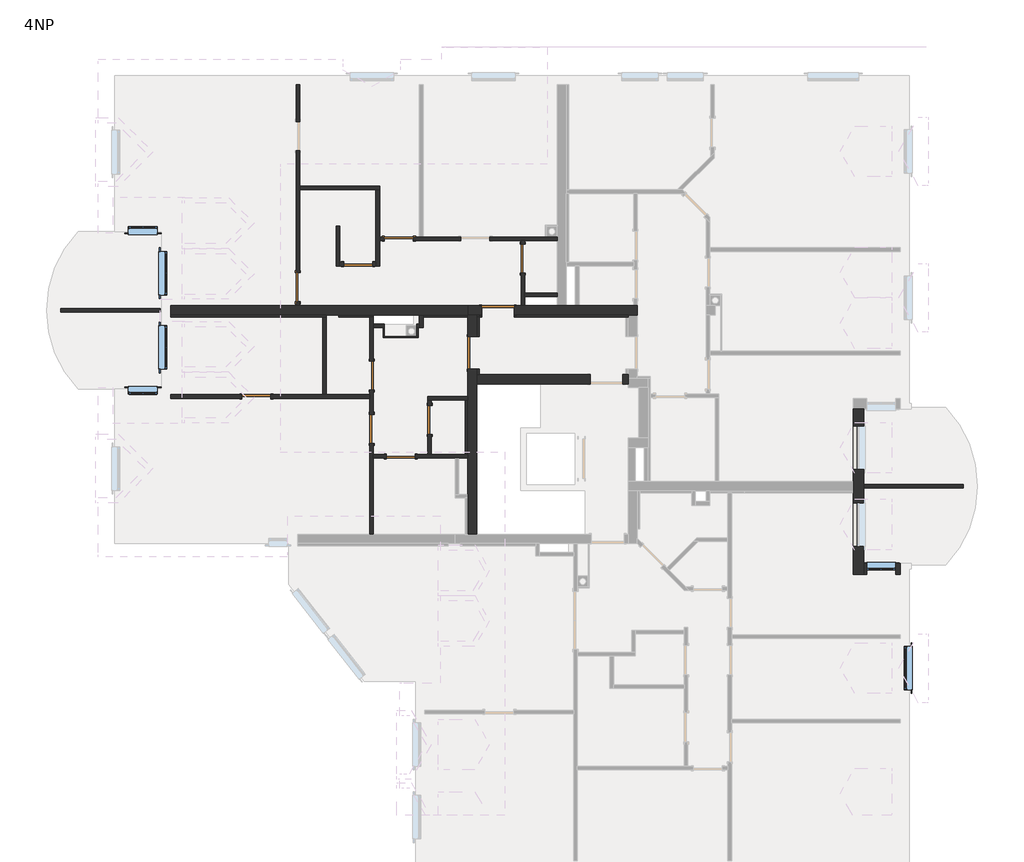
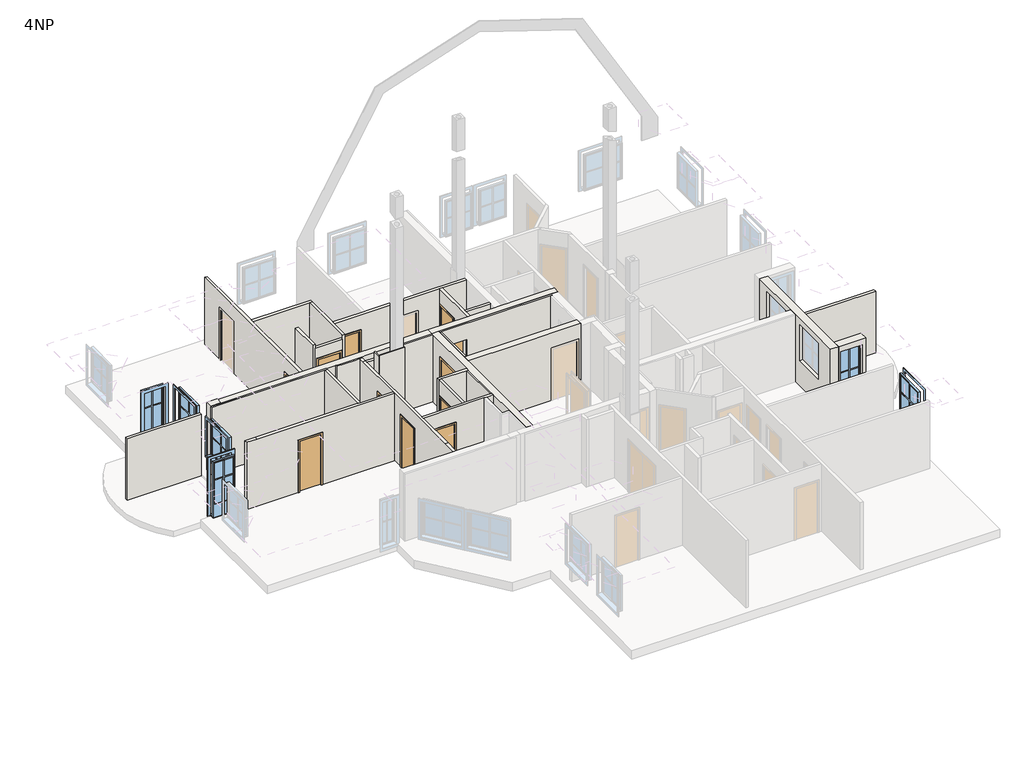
# One storey, part 2 of 5: 34 walls, 11 doors, 6 windows.
"""IFC4 building model written with IfcOpenShell, lengths in millimetres."""

from ifc_helpers import new_model, si_unit, frame, origin, place, context, project, spatial, polyline, outline, extrude, faceted_brep, transform, mapped, element, save
from components import sd_800x2000_6a16926d, sd_800x2000_80f4ff25, sd_900x2000_a6683946, standard_window_with_mullions_80486b60, window_2_775565f5, window_2_78aac011, window_2_7caaedc8

model = new_model("IFC4")

# Units and contexts
model_context = context("Model", 3, world=origin())
ifc_project = project(units=[si_unit("LENGTHUNIT", "METRE", prefix="MILLI")], contexts=[model_context])

# Site, building, storey
site = spatial("IfcSite", under=ifc_project)
building = spatial("IfcBuilding", under=site)
storey = spatial("IfcBuildingStorey", under=building, Name="4NP", Elevation=8850.0)

# Doors
placement = place(None, origin())
sd_800x2000_shape = sd_800x2000_6a16926d(model_context)
element("IfcDoor", 1, ObjectType="JednokridlePlne : SD 800x2000", at=placement, inside=storey, context=model_context, shape_type="MappedRepresentation", body=[
    mapped(sd_800x2000_shape, transform((-3907.1962165, 1323.3830769, 8850.0), x_axis=(0.0, -0.9999999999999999, 0.0), y_axis=(0.9999999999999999, 0.0, 0.0), z_axis=(0.0, 0.0, 1.0))),
])
element("IfcDoor", 2, ObjectType="JednokridlePlne : SD 800x2000", at=placement, inside=storey, context=model_context, shape_type="MappedRepresentation", body=[
    mapped(sd_800x2000_shape, transform((-8680.4610589, 1967.6290541, 8850.0), x_axis=(-1.0, 0.0, 0.0), y_axis=(0.0, -1.0, 0.0), z_axis=(0.0, 0.0, 1.0))),
])
element("IfcDoor", 3, ObjectType="JednokridlePlne : SD 800x2000", at=placement, inside=storey, context=model_context, shape_type="MappedRepresentation", body=[
    mapped(sd_800x2000_shape, transform((-5507.1962165, 1074.0740268, 8850.0), x_axis=(0.0, -1.0, 0.0), y_axis=(1.0, 0.0, 0.0), z_axis=(0.0, 0.0, 1.0))),
])
element("IfcDoor", 4, ObjectType="JednokridlePlne : SD 800x2000", at=placement, inside=storey, context=model_context, shape_type="MappedRepresentation", body=[
    mapped(sd_800x2000_shape, transform((-4702.5873933, 317.6290541, 8850.0), x_axis=(1.0, 0.0, 0.0), y_axis=(0.0, 1.0, 0.0), z_axis=(0.0, 0.0, 1.0))),
])
element("IfcDoor", 5, ObjectType="JednokridlePlne : SD 800x2000", at=placement, inside=storey, context=model_context, shape_type="MappedRepresentation", body=[
    mapped(sd_800x2000_shape, transform((-4754.8758057, 6317.6290541, 8850.0), x_axis=(-1.0, 0.0, 0.0), y_axis=(0.0, -1.0, 0.0), z_axis=(0.0, 0.0, 1.0))),
])
element("IfcDoor", 6, ObjectType="JednokridlePlne : SD 800x2000", at=placement, inside=storey, context=model_context, shape_type="MappedRepresentation", body=[
    mapped(sd_800x2000_shape, transform((-1337.1962165, 5771.0654579, 8850.0), x_axis=(0.0, -1.0, 0.0), y_axis=(1.0, 0.0, 0.0), z_axis=(0.0, 0.0, 1.0))),
])
element("IfcDoor", 7, ObjectType="JednokridlePlne : SD 800x2000", at=placement, inside=storey, context=model_context, shape_type="MappedRepresentation", body=[
    mapped(sd_800x2000_shape, transform((-5880.7146608, 5617.6290541, 8850.0), x_axis=(0.9999999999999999, 0.0, 0.0), y_axis=(0.0, 0.9999999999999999, 0.0), z_axis=(0.0, 0.0, 1.0))),
])
sd_800x2000_2_shape = sd_800x2000_80f4ff25(model_context)
element("IfcDoor", 8, ObjectType="JednokridlePlne : SD 800x2000", at=placement, inside=storey, context=model_context, shape_type="MappedRepresentation", body=[
    mapped(sd_800x2000_2_shape, transform((-5507.1962165, 2544.4942534, 8850.0), x_axis=(0.0, -1.0, 0.0), y_axis=(1.0, 0.0, 0.0), z_axis=(0.0, 0.0, 1.0))),
])
element("IfcDoor", 9, ObjectType="JednokridlePlne : SD 800x2000", at=placement, inside=storey, context=model_context, shape_type="MappedRepresentation", body=[
    mapped(sd_800x2000_2_shape, transform((-7537.1962165, 4978.4889536, 8850.0), x_axis=(0.0, 1.0, 0.0), y_axis=(-1.0, 0.0, 0.0), z_axis=(0.0, 0.0, 1.0))),
])
sd_900x2000_shape = sd_900x2000_a6683946(model_context)
element("IfcDoor", 10, ObjectType="JednokridlePlne : SD 900x2000", at=placement, inside=storey, context=model_context, shape_type="MappedRepresentation", body=[
    mapped(sd_900x2000_shape, transform((-2732.1962165, 3171.1987133, 8850.0), x_axis=(0.0, -0.9999999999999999, 0.0), y_axis=(0.9999999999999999, 0.0, 0.0), z_axis=(0.0, 0.0, 1.0))),
])
element("IfcDoor", 11, ObjectType="JednokridlePlne : SD 900x2000", at=placement, inside=storey, context=model_context, shape_type="MappedRepresentation", body=[
    mapped(sd_900x2000_shape, transform((-2027.1962165, 4342.6290541, 8850.0), x_axis=(-1.0, 0.0, 0.0), y_axis=(0.0, -1.0, 0.0), z_axis=(0.0, 0.0, 1.0))),
])

# Walls
element("IfcWall", 12, ObjectType="Exterior - 100mm", at=placement, inside=storey, context=model_context, shape_type="SweptSolid", body=[
    extrude(outline(polyline([(-14076.3140436, 4392.6290541), (-11337.1962165, 4392.6290541), (-11337.1962165, 4292.6290541), (-14076.3140436, 4292.6290541), (-14076.3140436, 4392.6290541)])), frame((0.0, 0.0, 8850.0), z_axis=(0.0, 0.0, 1.0), x_axis=(1.0, 0.0, 0.0)), (0.0, 0.0, 1.0), 2400.0),
])
element("IfcWall", 13, ObjectType="Exterior - 100mm", at=placement, inside=storey, context=model_context, shape_type="SweptSolid", body=[
    extrude(outline(polyline([(10801.9216105, -557.3709459), (8062.8037835, -557.3709459), (8062.8037835, -457.3709459), (10801.9216105, -457.3709459), (10801.9216105, -557.3709459)])), frame((0.0, 0.0, 8850.0), z_axis=(0.0, 0.0, 1.0), x_axis=(1.0, 0.0, 0.0)), (0.0, 0.0, 1.0), 2400.0),
])
element("IfcWall", 14, ObjectType="Exterior - 250 + 50mm", at=placement, inside=storey, context=model_context, shape_type="Brep", body=[
    faceted_brep([(7762.8037835, 1617.6290541, 8850.0), (7762.8037835, -382.3709459, 8850.0), (7762.8037835, -632.3709459, 8850.0), (7762.8037835, -697.3709459, 8850.0), (7762.8037835, -2932.3709459, 8850.0), (7762.8037835, -2932.3709459, 11480.0), (7762.8037835, -697.3709459, 11480.0), (7762.8037835, -632.3709459, 11480.0), (7762.8037835, -382.3709459, 11480.0), (7762.8037835, 1617.6290541, 11480.0), (7762.8037835, 1155.9947187, 9850.0), (7762.8037835, 1155.9947187, 11250.0), (7762.8037835, -44.0052813, 11250.0), (7762.8037835, -44.0052813, 9850.0), (7762.8037835, -963.5367865, 9850.0), (7762.8037835, -963.5367865, 11250.0), (7762.8037835, -2163.5367865, 11250.0), (7762.8037835, -2163.5367865, 9850.0), (8062.8037835, 1617.6290541, 8850.0), (8062.8037835, 1617.6290541, 11480.0), (8062.8037835, -2632.3709459, 11480.0), (8062.8037835, -2932.3709459, 11480.0), (8062.8037835, -2932.3709459, 8850.0), (8062.8037835, -2632.3709459, 8850.0), (8062.8037835, -557.3709459, 8850.0), (8062.8037835, -457.3709459, 8850.0), (8062.8037835, 1155.9947187, 9850.0), (8062.8037835, -44.0052813, 9850.0), (8062.8037835, -44.0052813, 11250.0), (8062.8037835, 1155.9947187, 11250.0), (8062.8037835, -963.5367865, 9850.0), (8062.8037835, -2163.5367865, 9850.0), (8062.8037835, -2163.5367865, 11250.0), (8062.8037835, -963.5367865, 11250.0)], [[[0, 1, 2, 3, 4, 5, 6, 7, 8, 9], [10, 11, 12, 13], [14, 15, 16, 17]], [[18, 19, 20, 21, 22, 23, 24, 25], [26, 27, 28, 29], [30, 31, 32, 33]], [[4, 3, 2, 1, 0, 18, 25, 24, 23, 22]], [[5, 4, 22, 21]], [[0, 9, 19, 18]], [[9, 8, 7, 6, 5, 21, 20, 19]], [[11, 10, 26, 29]], [[12, 11, 29, 28]], [[13, 12, 28, 27]], [[10, 13, 27, 26]], [[15, 14, 30, 33]], [[16, 15, 33, 32]], [[17, 16, 32, 31]], [[14, 17, 31, 30]]]),
])
element("IfcWall", 15, ObjectType="Exterior - 250+50mm", at=placement, inside=storey, context=model_context, shape_type="SweptSolid", body=[
    extrude(outline(polyline([(11480.0, 8062.8037835), (8850.0, 8062.8037835), (8850.0, 8132.977935), (11250.0, 8132.977935), (11250.0, 8932.977935), (8850.0, 8932.977935), (8850.0, 9062.8037835), (11480.0, 9062.8037835), (11480.0, 8062.8037835)])), frame((0.0, -2932.3709459, 0.0), z_axis=(0.0, 1.0, 0.0), x_axis=(0.0, 0.0, 1.0)), (0.0, 0.0, 1.0), 300.0),
])
element("IfcWall", 16, ObjectType="Interior - 100mm", at=placement, inside=storey, context=model_context, shape_type="Brep", body=[
    faceted_brep([(-1287.1962165, 4467.6290541, 8850.0), (-1287.1962165, 4717.6290541, 8850.0), (-1287.1962165, 4817.6290541, 8850.0), (-1287.1962165, 5371.0654579, 8850.0), (-1287.1962165, 5371.0654579, 10850.0), (-1287.1962165, 6171.0654579, 10850.0), (-1287.1962165, 6171.0654579, 8850.0), (-1287.1962165, 6267.6290541, 8850.0), (-1287.1962165, 6267.6290541, 11480.0), (-1287.1962165, 4817.6290541, 11480.0), (-1287.1962165, 4717.6290541, 11480.0), (-1287.1962165, 4467.6290541, 11480.0), (-1387.1962165, 5371.0654579, 10850.0), (-1387.1962165, 5371.0654579, 8850.0), (-1387.1962165, 4467.6290541, 8850.0), (-1387.1962165, 4467.6290541, 11480.0), (-1387.1962165, 6267.6290541, 11480.0), (-1387.1962165, 6267.6290541, 8850.0), (-1387.1962165, 6171.0654579, 8850.0), (-1387.1962165, 6171.0654579, 10850.0)], [[[0, 1, 2, 3, 4, 5, 6, 7, 8, 9, 10, 11]], [[12, 13, 14, 15, 16, 17, 18, 19]], [[14, 13, 3, 2, 1, 0]], [[18, 17, 7, 6]], [[0, 11, 15, 14]], [[8, 7, 17, 16]], [[11, 10, 9, 8, 16, 15]], [[4, 3, 13, 12]], [[5, 4, 12, 19]], [[6, 5, 19, 18]]]),
])
element("IfcWall", 17, ObjectType="Interior - 100mm", at=placement, inside=storey, context=model_context, shape_type="SweptSolid", body=[
    extrude(outline(polyline([(-387.1962165, 4717.6290541), (-1287.1962165, 4717.6290541), (-1287.1962165, 4817.6290541), (-387.1962165, 4817.6290541), (-387.1962165, 4717.6290541)])), frame((0.0, 0.0, 8850.0), z_axis=(0.0, 0.0, 1.0), x_axis=(1.0, 0.0, 0.0)), (0.0, 0.0, 1.0), 2630.0),
])
element("IfcWall", 18, ObjectType="Interior - 100mm", at=placement, inside=storey, context=model_context, shape_type="Brep", body=[
    faceted_brep([(-4187.1962165, 3967.6290541, 8850.0), (-4257.1962165, 3967.6290541, 8850.0), (-4257.1962165, 3967.6290541, 11480.0), (-4187.1962165, 3967.6290541, 11480.0), (-4187.1962165, 3867.6290541, 8850.0), (-4187.1962165, 3867.6290541, 11480.0), (-4257.1962165, 3867.6290541, 11480.0), (-4257.1962165, 3867.6290541, 8850.0), (-4227.1962165, 3867.6290541, 8850.0), (-4257.1962165, 3917.6290541, 8850.0)], [[[0, 1, 2, 3]], [[4, 5, 6, 7, 8]], [[1, 0, 4, 8, 7, 9]], [[2, 1, 9, 7, 6]], [[0, 3, 5, 4]], [[3, 2, 6, 5]]]),
])
element("IfcWall", 19, ObjectType="Interior - 100mm", at=placement, inside=storey, context=model_context, shape_type="Brep", body=[
    faceted_brep([(-5157.1962165, 3967.6290541, 8850.0), (-5457.1962165, 3967.6290541, 8850.0), (-5457.1962165, 3967.6290541, 11480.0), (-5157.1962165, 3967.6290541, 11480.0), (-5157.1962165, 3867.6290541, 8850.0), (-5157.1962165, 3867.6290541, 11480.0), (-5457.1962165, 3867.6290541, 11480.0), (-5457.1962165, 3867.6290541, 8850.0), (-5187.1962165, 3867.6290541, 8850.0)], [[[0, 1, 2, 3]], [[4, 5, 6, 7, 8]], [[1, 0, 4, 8, 7]], [[0, 3, 5, 4]], [[2, 1, 7, 6]], [[3, 2, 6, 5]]]),
])
element("IfcWall", 20, ObjectType="Interior - 100mm", at=placement, inside=storey, context=model_context, shape_type="Brep", body=[
    faceted_brep([(-4302.5873933, 267.6290541, 10850.0), (-4302.5873933, 267.6290541, 8850.0), (-3207.1962165, 267.6290541, 8850.0), (-3107.1962165, 267.6290541, 8850.0), (-2857.1962165, 267.6290541, 8850.0), (-2857.1962165, 267.6290541, 11480.0), (-3107.1962165, 267.6290541, 11480.0), (-3207.1962165, 267.6290541, 11480.0), (-5457.1962165, 267.6290541, 11480.0), (-5457.1962165, 267.6290541, 8850.0), (-5102.5873933, 267.6290541, 8850.0), (-5102.5873933, 267.6290541, 10850.0), (-2857.1962165, 367.6290541, 8850.0), (-2922.1962165, 367.6290541, 8850.0), (-3857.1962165, 367.6290541, 8850.0), (-3957.1962165, 367.6290541, 8850.0), (-4302.5873933, 367.6290541, 8850.0), (-4302.5873933, 367.6290541, 10850.0), (-5102.5873933, 367.6290541, 10850.0), (-5102.5873933, 367.6290541, 8850.0), (-5457.1962165, 367.6290541, 8850.0), (-5457.1962165, 367.6290541, 11480.0), (-3957.1962165, 367.6290541, 11480.0), (-3857.1962165, 367.6290541, 11480.0), (-2922.1962165, 367.6290541, 11480.0), (-2857.1962165, 367.6290541, 11480.0)], [[[0, 1, 2, 3, 4, 5, 6, 7, 8, 9, 10, 11]], [[12, 13, 14, 15, 16, 17, 18, 19, 20, 21, 22, 23, 24, 25]], [[4, 3, 2, 1, 16, 15, 14, 13, 12]], [[10, 9, 20, 19]], [[5, 4, 12, 25]], [[9, 8, 21, 20]], [[8, 7, 6, 5, 25, 24, 23, 22, 21]], [[17, 16, 1, 0]], [[18, 17, 0, 11]], [[19, 18, 11, 10]]]),
])
element("IfcWall", 21, ObjectType="Interior - 100mm", at=placement, inside=storey, context=model_context, shape_type="Brep", body=[
    faceted_brep([(-4187.1962165, 4217.6290541, 8850.0), (-4187.1962165, 3967.6290541, 8850.0), (-4187.1962165, 3867.6290541, 8850.0), (-4187.1962165, 3867.6290541, 11480.0), (-4187.1962165, 3967.6290541, 11480.0), (-4187.1962165, 4217.6290541, 11480.0), (-4087.1962165, 4217.6290541, 8850.0), (-4087.1962165, 4217.6290541, 11480.0), (-4087.1962165, 4152.6290541, 11480.0), (-4087.1962165, 3867.6290541, 11480.0), (-4087.1962165, 3867.6290541, 8850.0), (-4087.1962165, 4152.6290541, 8850.0)], [[[0, 1, 2, 3, 4, 5]], [[6, 7, 8, 9, 10, 11]], [[2, 1, 0, 6, 11, 10]], [[3, 2, 10, 9]], [[0, 5, 7, 6]], [[5, 4, 3, 9, 8, 7]]]),
])
element("IfcWall", 22, ObjectType="Interior - 100mm", at=placement, inside=storey, context=model_context, shape_type="Brep", body=[
    faceted_brep([(-2857.1962165, 1967.6290541, 8850.0), (-3957.1962165, 1967.6290541, 8850.0), (-3957.1962165, 1967.6290541, 11480.0), (-2857.1962165, 1967.6290541, 11480.0), (-2857.1962165, 1867.6290541, 8850.0), (-2857.1962165, 1867.6290541, 11480.0), (-2922.1962165, 1867.6290541, 11480.0), (-3857.1962165, 1867.6290541, 11480.0), (-3957.1962165, 1867.6290541, 11480.0), (-3957.1962165, 1867.6290541, 8850.0), (-3857.1962165, 1867.6290541, 8850.0), (-2922.1962165, 1867.6290541, 8850.0)], [[[0, 1, 2, 3]], [[4, 5, 6, 7, 8, 9, 10, 11]], [[1, 0, 4, 11, 10, 9]], [[2, 1, 9, 8]], [[0, 3, 5, 4]], [[3, 2, 8, 7, 6, 5]]]),
])
element("IfcWall", 23, ObjectType="Interior - 100mm", at=placement, inside=storey, context=model_context, shape_type="SweptSolid", body=[
    extrude(outline(polyline([(923.3830769, 10850.0), (923.3830769, 8850.0), (367.6290541, 8850.0), (367.6290541, 11480.0), (1867.6290541, 11480.0), (1867.6290541, 8850.0), (1723.3830769, 8850.0), (1723.3830769, 10850.0), (923.3830769, 10850.0)])), frame((-3957.1962165, 0.0, 0.0), z_axis=(1.0, 0.0, 0.0), x_axis=(0.0, 1.0, 0.0)), (0.0, 0.0, 1.0), 100.0),
])
element("IfcWall", 24, ObjectType="Interior - 100mm", at=placement, inside=storey, context=model_context, shape_type="Brep", body=[
    faceted_brep([(-11037.1962165, 1917.6290541, 8850.0), (-9080.4610589, 1917.6290541, 8850.0), (-9080.4610589, 1917.6290541, 10850.0), (-8280.4610589, 1917.6290541, 10850.0), (-8280.4610589, 1917.6290541, 8850.0), (-5557.1962165, 1917.6290541, 8850.0), (-5557.1962165, 1917.6290541, 11480.0), (-10656.4352243, 1917.6290541, 11480.0), (-11037.1962165, 1917.6290541, 11480.0), (-9080.4610589, 2017.6290541, 10850.0), (-9080.4610589, 2017.6290541, 8850.0), (-11037.1962165, 2017.6290541, 8850.0), (-11037.1962165, 2017.6290541, 11480.0), (-10656.4352243, 2017.6290541, 11480.0), (-6857.1962165, 2017.6290541, 11480.0), (-6757.1962165, 2017.6290541, 11480.0), (-5557.1962165, 2017.6290541, 11480.0), (-5557.1962165, 2017.6290541, 8850.0), (-6757.1962165, 2017.6290541, 8850.0), (-6857.1962165, 2017.6290541, 8850.0), (-8280.4610589, 2017.6290541, 8850.0), (-8280.4610589, 2017.6290541, 10850.0)], [[[0, 1, 2, 3, 4, 5, 6, 7, 8]], [[9, 10, 11, 12, 13, 14, 15, 16, 17, 18, 19, 20, 21]], [[11, 10, 1, 0]], [[20, 19, 18, 17, 5, 4]], [[0, 8, 12, 11]], [[6, 5, 17, 16]], [[8, 7, 13, 12]], [[7, 6, 16, 15, 14, 13]], [[2, 1, 10, 9]], [[3, 2, 9, 21]], [[4, 3, 21, 20]]]),
])
element("IfcWall", 25, ObjectType="Interior - 100mm", at=placement, inside=storey, context=model_context, shape_type="SweptSolid", body=[
    extrude(outline(polyline([(-6757.1962165, 4152.6290541), (-6757.1962165, 2017.6290541), (-6857.1962165, 2017.6290541), (-6857.1962165, 4152.6290541), (-6757.1962165, 4152.6290541)])), frame((0.0, 0.0, 8850.0), z_axis=(0.0, 0.0, 1.0), x_axis=(1.0, 0.0, 0.0)), (0.0, 0.0, 1.0), 2630.0),
])
element("IfcWall", 26, ObjectType="Interior - 100mm", at=placement, inside=storey, context=model_context, shape_type="Brep", body=[
    faceted_brep([(-5557.1962165, 2144.4942534, 10850.0), (-5557.1962165, 2144.4942534, 8850.0), (-5557.1962165, 2017.6290541, 8850.0), (-5557.1962165, 1917.6290541, 8850.0), (-5557.1962165, 1474.0740268, 8850.0), (-5557.1962165, 1474.0740268, 10850.0), (-5557.1962165, 674.0740268, 10850.0), (-5557.1962165, 674.0740268, 8850.0), (-5557.1962165, -1832.3709459, 8850.0), (-5557.1962165, -1832.3709459, 11480.0), (-5557.1962165, -1338.1208451, 11480.0), (-5557.1962165, 1917.6290541, 11480.0), (-5557.1962165, 2017.6290541, 11480.0), (-5557.1962165, 3967.6290541, 11480.0), (-5557.1962165, 4152.6290541, 11480.0), (-5557.1962165, 4152.6290541, 8850.0), (-5557.1962165, 2944.4942534, 8850.0), (-5557.1962165, 2944.4942534, 10850.0), (-5457.1962165, 1474.0740268, 8850.0), (-5457.1962165, 2144.4942534, 8850.0), (-5457.1962165, 2144.4942534, 10850.0), (-5457.1962165, 2944.4942534, 10850.0), (-5457.1962165, 2944.4942534, 8850.0), (-5457.1962165, 3867.6290541, 8850.0), (-5457.1962165, 3967.6290541, 8850.0), (-5457.1962165, 4152.6290541, 8850.0), (-5457.1962165, 4152.6290541, 11480.0), (-5457.1962165, 3967.6290541, 11480.0), (-5457.1962165, 3867.6290541, 11480.0), (-5457.1962165, 367.6290541, 11480.0), (-5457.1962165, 267.6290541, 11480.0), (-5457.1962165, -1338.1208451, 11480.0), (-5457.1962165, -1832.3709459, 11480.0), (-5457.1962165, -1832.3709459, 8850.0), (-5457.1962165, 267.6290541, 8850.0), (-5457.1962165, 367.6290541, 8850.0), (-5457.1962165, 674.0740268, 8850.0), (-5457.1962165, 674.0740268, 10850.0), (-5457.1962165, 1474.0740268, 10850.0)], [[[0, 1, 2, 3, 4, 5, 6, 7, 8, 9, 10, 11, 12, 13, 14, 15, 16, 17]], [[18, 19, 20, 21, 22, 23, 24, 25, 26, 27, 28, 29, 30, 31, 32, 33, 34, 35, 36, 37, 38]], [[8, 7, 36, 35, 34, 33]], [[4, 3, 2, 1, 19, 18]], [[16, 15, 25, 24, 23, 22]], [[15, 14, 26, 25]], [[9, 8, 33, 32]], [[14, 13, 27, 26]], [[10, 9, 32, 31]], [[13, 12, 11, 10, 31, 30, 29, 28, 27]], [[37, 36, 7, 6]], [[38, 37, 6, 5]], [[18, 38, 5, 4]], [[20, 19, 1, 0]], [[21, 20, 0, 17]], [[22, 21, 17, 16]]]),
])
element("IfcWall", 27, ObjectType="Interior - 100mm", at=placement, inside=storey, context=model_context, shape_type="Brep", body=[
    faceted_brep([(-7587.1962165, 8751.243393, 8850.0), (-7587.1962165, 5378.4889536, 8850.0), (-7587.1962165, 5378.4889536, 10850.0), (-7587.1962165, 4578.4889536, 10850.0), (-7587.1962165, 4578.4889536, 8850.0), (-7587.1962165, 4467.6290541, 8850.0), (-7587.1962165, 4467.6290541, 11480.0), (-7587.1962165, 10567.6290541, 11480.0), (-7587.1962165, 10567.6290541, 8850.0), (-7587.1962165, 9551.243393, 8850.0), (-7587.1962165, 9551.243393, 10850.0), (-7587.1962165, 8751.243393, 10850.0), (-7487.1962165, 5378.4889536, 10850.0), (-7487.1962165, 5378.4889536, 8850.0), (-7487.1962165, 7667.6290541, 8850.0), (-7487.1962165, 7767.6290541, 8850.0), (-7487.1962165, 8751.243393, 8850.0), (-7487.1962165, 8751.243393, 10850.0), (-7487.1962165, 9551.243393, 10850.0), (-7487.1962165, 9551.243393, 8850.0), (-7487.1962165, 10567.6290541, 8850.0), (-7487.1962165, 10567.6290541, 11480.0), (-7487.1962165, 7767.6290541, 11480.0), (-7487.1962165, 7667.6290541, 11480.0), (-7487.1962165, 5567.6290541, 11480.0), (-7487.1962165, 4467.6290541, 11480.0), (-7487.1962165, 4467.6290541, 8850.0), (-7487.1962165, 4578.4889536, 8850.0), (-7487.1962165, 4578.4889536, 10850.0)], [[[0, 1, 2, 3, 4, 5, 6, 7, 8, 9, 10, 11]], [[12, 13, 14, 15, 16, 17, 18, 19, 20, 21, 22, 23, 24, 25, 26, 27, 28]], [[16, 15, 14, 13, 1, 0]], [[9, 8, 20, 19]], [[27, 26, 5, 4]], [[8, 7, 21, 20]], [[6, 5, 26, 25]], [[7, 6, 25, 24, 23, 22, 21]], [[17, 16, 0, 11]], [[18, 17, 11, 10]], [[19, 18, 10, 9]], [[2, 1, 13, 12]], [[3, 2, 12, 28]], [[4, 3, 28, 27]]]),
])
element("IfcWall", 28, ObjectType="Interior - 100mm", at=placement, inside=storey, context=model_context, shape_type="Brep", body=[
    faceted_brep([(-7487.1962165, 7667.6290541, 8850.0), (-5387.1962165, 7667.6290541, 8850.0), (-5287.1962165, 7667.6290541, 8850.0), (-5287.1962165, 7667.6290541, 11480.0), (-5387.1962165, 7667.6290541, 11480.0), (-7487.1962165, 7667.6290541, 11480.0), (-7487.1962165, 7767.6290541, 8850.0), (-7487.1962165, 7767.6290541, 11480.0), (-5287.1962165, 7767.6290541, 11480.0), (-5287.1962165, 7767.6290541, 8850.0)], [[[0, 1, 2, 3, 4, 5]], [[6, 7, 8, 9]], [[2, 1, 0, 6, 9]], [[3, 2, 9, 8]], [[0, 5, 7, 6]], [[5, 4, 3, 8, 7]]]),
])
element("IfcWall", 29, ObjectType="Interior - 100mm", at=placement, inside=storey, context=model_context, shape_type="Brep", body=[
    faceted_brep([(-5387.1962165, 7667.6290541, 8850.0), (-5387.1962165, 5667.6290541, 8850.0), (-5387.1962165, 5567.6290541, 8850.0), (-5387.1962165, 5567.6290541, 11326.0), (-5387.1962165, 5567.6290541, 11480.0), (-5387.1962165, 7667.6290541, 11480.0), (-5287.1962165, 7667.6290541, 8850.0), (-5287.1962165, 7667.6290541, 11480.0), (-5287.1962165, 6367.6290541, 11480.0), (-5287.1962165, 6267.6290541, 11480.0), (-5287.1962165, 5567.6290541, 11480.0), (-5287.1962165, 5567.6290541, 8850.0), (-5287.1962165, 6267.6290541, 8850.0), (-5287.1962165, 6367.6290541, 8850.0)], [[[0, 1, 2, 3, 4, 5]], [[6, 7, 8, 9, 10, 11, 12, 13]], [[2, 1, 0, 6, 13, 12, 11]], [[4, 3, 2, 11, 10]], [[0, 5, 7, 6]], [[5, 4, 10, 9, 8, 7]]]),
])
element("IfcWall", 30, ObjectType="Interior - 100mm", at=placement, inside=storey, context=model_context, shape_type="SweptSolid", body=[
    extrude(outline(polyline([(10850.0, -5480.7146608), (8850.0, -5480.7146608), (8850.0, -5387.1962165), (11326.0, -5387.1962165), (11326.0, -6387.1962165), (8850.0, -6387.1962165), (8850.0, -6280.7146608), (10850.0, -6280.7146608), (10850.0, -5480.7146608)])), frame((0.0, 5567.6290541, 0.0), z_axis=(0.0, 1.0, 0.0), x_axis=(0.0, 0.0, 1.0)), (0.0, 0.0, 1.0), 100.0),
])
element("IfcWall", 31, ObjectType="Interior - 100mm", at=placement, inside=storey, context=model_context, shape_type="Brep", body=[
    faceted_brep([(-6387.1962165, 5567.6290541, 8850.0), (-6387.1962165, 5667.6290541, 8850.0), (-6387.1962165, 6667.6290541, 8850.0), (-6387.1962165, 6667.6290541, 11480.0), (-6387.1962165, 5567.6290541, 11480.0), (-6387.1962165, 5567.6290541, 11326.0), (-6487.1962165, 5567.6290541, 8850.0), (-6487.1962165, 5567.6290541, 11480.0), (-6487.1962165, 6667.6290541, 11480.0), (-6487.1962165, 6667.6290541, 8850.0)], [[[0, 1, 2, 3, 4, 5]], [[6, 7, 8, 9]], [[2, 1, 0, 6, 9]], [[3, 2, 9, 8]], [[4, 3, 8, 7]], [[0, 5, 4, 7, 6]]]),
])
element("IfcWall", 32, ObjectType="Interior - 100mm", at=placement, inside=storey, context=model_context, shape_type="Brep", body=[
    faceted_brep([(-387.1962165, 6367.6290541, 8850.0), (-687.1962165, 6367.6290541, 8850.0), (-717.1962165, 6367.6290541, 8850.0), (-2246.4866772, 6367.6290541, 8850.0), (-2246.4866772, 6367.6290541, 10850.0), (-3046.4866772, 6367.6290541, 10850.0), (-3046.4866772, 6367.6290541, 8850.0), (-4087.1962165, 6367.6290541, 8850.0), (-4187.1962165, 6367.6290541, 8850.0), (-4354.8758057, 6367.6290541, 8850.0), (-4354.8758057, 6367.6290541, 10850.0), (-5154.8758057, 6367.6290541, 10850.0), (-5154.8758057, 6367.6290541, 8850.0), (-5287.1962165, 6367.6290541, 8850.0), (-5287.1962165, 6367.6290541, 11480.0), (-4187.1962165, 6367.6290541, 11480.0), (-4087.1962165, 6367.6290541, 11480.0), (-387.1962165, 6367.6290541, 11480.0), (-2246.4866772, 6267.6290541, 10850.0), (-2246.4866772, 6267.6290541, 8850.0), (-1387.1962165, 6267.6290541, 8850.0), (-1287.1962165, 6267.6290541, 8850.0), (-387.1962165, 6267.6290541, 8850.0), (-387.1962165, 6267.6290541, 11480.0), (-1287.1962165, 6267.6290541, 11480.0), (-1387.1962165, 6267.6290541, 11480.0), (-5287.1962165, 6267.6290541, 11480.0), (-5287.1962165, 6267.6290541, 8850.0), (-5154.8758057, 6267.6290541, 8850.0), (-5154.8758057, 6267.6290541, 10850.0), (-4354.8758057, 6267.6290541, 10850.0), (-4354.8758057, 6267.6290541, 8850.0), (-3046.4866772, 6267.6290541, 8850.0), (-3046.4866772, 6267.6290541, 10850.0)], [[[0, 1, 2, 3, 4, 5, 6, 7, 8, 9, 10, 11, 12, 13, 14, 15, 16, 17]], [[18, 19, 20, 21, 22, 23, 24, 25, 26, 27, 28, 29, 30, 31, 32, 33]], [[13, 12, 28, 27]], [[22, 21, 20, 19, 3, 2, 1, 0]], [[32, 31, 9, 8, 7, 6]], [[0, 17, 23, 22]], [[14, 13, 27, 26]], [[17, 16, 15, 14, 26, 25, 24, 23]], [[29, 28, 12, 11]], [[30, 29, 11, 10]], [[31, 30, 10, 9]], [[4, 3, 19, 18]], [[5, 4, 18, 33]], [[6, 5, 33, 32]]]),
])
element("IfcWall", 33, ObjectType="Interior - 250mm", at=placement, inside=storey, context=model_context, shape_type="Brep", body=[
    faceted_brep([(-11037.1962165, 4217.6290541, 8850.0), (-4187.1962165, 4217.6290541, 8850.0), (-4087.1962165, 4217.6290541, 8850.0), (-2857.1962165, 4217.6290541, 8850.0), (-2857.1962165, 4217.6290541, 11480.0), (-4087.1962165, 4217.6290541, 11480.0), (-4187.1962165, 4217.6290541, 11480.0), (-5757.1962165, 4217.6290541, 11480.0), (-10656.4352243, 4217.6290541, 11480.0), (-10656.4352243, 4217.6290541, 11500.0), (-11037.1962165, 4217.6290541, 11500.0), (-11037.1962165, 4467.6290541, 8850.0), (-11037.1962165, 4467.6290541, 11500.0), (-10656.4352243, 4467.6290541, 11500.0), (-10656.4352243, 4467.6290541, 11480.0), (-7587.1962165, 4467.6290541, 11480.0), (-7487.1962165, 4467.6290541, 11480.0), (-2857.1962165, 4467.6290541, 11480.0), (-2857.1962165, 4467.6290541, 8850.0), (-7487.1962165, 4467.6290541, 8850.0), (-7587.1962165, 4467.6290541, 8850.0)], [[[0, 1, 2, 3, 4, 5, 6, 7, 8, 9, 10]], [[11, 12, 13, 14, 15, 16, 17, 18, 19, 20]], [[3, 2, 1, 0, 11, 20, 19, 18]], [[0, 10, 12, 11]], [[4, 3, 18, 17]], [[10, 9, 13, 12]], [[13, 9, 8, 14]], [[8, 7, 6, 5, 4, 17, 16, 15, 14]]]),
])
element("IfcWall", 34, ObjectType="Interior - 250mm", at=placement, inside=storey, context=model_context, shape_type="Brep", body=[
    faceted_brep([(517.0786115, 2567.6290541, 10850.0), (517.0786115, 2567.6290541, 8850.0), (-2542.1962165, 2567.6290541, 8850.0), (-2607.1962165, 2567.6290541, 8850.0), (-2607.1962165, 2567.6290541, 11480.0), (-2542.1962165, 2567.6290541, 11480.0), (1497.8037835, 2567.6290541, 11480.0), (1562.8037835, 2567.6290541, 11480.0), (1562.8037835, 2567.6290541, 8850.0), (1497.8037835, 2567.6290541, 8850.0), (1417.0786115, 2567.6290541, 8850.0), (1417.0786115, 2567.6290541, 10850.0), (-2607.1962165, 2317.6290541, 8850.0), (517.0786115, 2317.6290541, 8850.0), (517.0786115, 2317.6290541, 10850.0), (1417.0786115, 2317.6290541, 10850.0), (1417.0786115, 2317.6290541, 8850.0), (1562.8037835, 2317.6290541, 8850.0), (1562.8037835, 2317.6290541, 11480.0), (-857.1962165, 2317.6290541, 11480.0), (-2607.1962165, 2317.6290541, 11480.0), (1562.8037835, 2467.6290541, 8850.0), (1562.8037835, 2467.6290541, 11480.0)], [[[0, 1, 2, 3, 4, 5, 6, 7, 8, 9, 10, 11]], [[12, 13, 14, 15, 16, 17, 18, 19, 20]], [[3, 2, 1, 13, 12]], [[10, 9, 8, 21, 17, 16]], [[8, 7, 22, 18, 17, 21]], [[4, 3, 12, 20]], [[7, 6, 5, 4, 20, 19, 18, 22]], [[14, 13, 1, 0]], [[15, 14, 0, 11]], [[16, 15, 11, 10]]]),
])
element("IfcWall", 35, ObjectType="Interior - 250mm", at=placement, inside=storey, context=model_context, shape_type="Brep", body=[
    faceted_brep([(-2857.1962165, 2721.1987133, 10850.0), (-2857.1962165, 2721.1987133, 8850.0), (-2857.1962165, 1967.6290541, 8850.0), (-2857.1962165, 1867.6290541, 8850.0), (-2857.1962165, 367.6290541, 8850.0), (-2857.1962165, 267.6290541, 8850.0), (-2857.1962165, -732.3709459, 8850.0), (-2857.1962165, -832.3709459, 8850.0), (-2857.1962165, -1832.3709459, 8850.0), (-2857.1962165, -1832.3709459, 11480.0), (-2857.1962165, -832.3709459, 11480.0), (-2857.1962165, -732.3709459, 11480.0), (-2857.1962165, 267.6290541, 11480.0), (-2857.1962165, 367.6290541, 11480.0), (-2857.1962165, 1867.6290541, 11480.0), (-2857.1962165, 1967.6290541, 11480.0), (-2857.1962165, 4152.6290541, 11480.0), (-2857.1962165, 4217.6290541, 11480.0), (-2857.1962165, 4217.6290541, 8850.0), (-2857.1962165, 4152.6290541, 8850.0), (-2857.1962165, 3621.1987133, 8850.0), (-2857.1962165, 3621.1987133, 10850.0), (-2607.1962165, -1832.3709459, 8850.0), (-2607.1962165, 2317.6290541, 8850.0), (-2607.1962165, 2567.6290541, 8850.0), (-2607.1962165, 2721.1987133, 8850.0), (-2607.1962165, 2721.1987133, 10850.0), (-2607.1962165, 3621.1987133, 10850.0), (-2607.1962165, 3621.1987133, 8850.0), (-2607.1962165, 4152.6290541, 8850.0), (-2607.1962165, 4217.6290541, 8850.0), (-2607.1962165, 4217.6290541, 11480.0), (-2607.1962165, 4152.6290541, 11480.0), (-2607.1962165, 2567.6290541, 11480.0), (-2607.1962165, 2317.6290541, 11480.0), (-2607.1962165, -1832.3709459, 11480.0)], [[[0, 1, 2, 3, 4, 5, 6, 7, 8, 9, 10, 11, 12, 13, 14, 15, 16, 17, 18, 19, 20, 21]], [[22, 23, 24, 25, 26, 27, 28, 29, 30, 31, 32, 33, 34, 35]], [[8, 7, 6, 5, 4, 3, 2, 1, 25, 24, 23, 22]], [[20, 19, 18, 30, 29, 28]], [[9, 8, 22, 35]], [[18, 17, 31, 30]], [[17, 16, 15, 14, 13, 12, 11, 10, 9, 35, 34, 33, 32, 31]], [[26, 25, 1, 0]], [[27, 26, 0, 21]], [[28, 27, 21, 20]]]),
])
element("IfcWall", 36, ObjectType="Interior - 250mm", at=placement, inside=storey, context=model_context, shape_type="Brep", body=[
    faceted_brep([(-2857.1962165, 4217.6290541, 8850.0), (-2607.1962165, 4217.6290541, 8850.0), (-2477.1962165, 4217.6290541, 8850.0), (-2477.1962165, 4217.6290541, 10850.0), (-1577.1962165, 4217.6290541, 10850.0), (-1577.1962165, 4217.6290541, 8850.0), (1562.8037835, 4217.6290541, 8850.0), (1812.8037835, 4217.6290541, 8850.0), (1812.8037835, 4217.6290541, 11480.0), (1562.8037835, 4217.6290541, 11480.0), (-2607.1962165, 4217.6290541, 11480.0), (-2857.1962165, 4217.6290541, 11480.0), (-2477.1962165, 4467.6290541, 10850.0), (-2477.1962165, 4467.6290541, 8850.0), (-2857.1962165, 4467.6290541, 8850.0), (-2857.1962165, 4467.6290541, 11480.0), (-1387.1962165, 4467.6290541, 11480.0), (-1287.1962165, 4467.6290541, 11480.0), (-387.1962165, 4467.6290541, 11480.0), (-137.1962165, 4467.6290541, 11480.0), (112.8037835, 4467.6290541, 11480.0), (212.8037835, 4467.6290541, 11480.0), (1712.8037835, 4467.6290541, 11480.0), (1812.8037835, 4467.6290541, 11480.0), (1812.8037835, 4467.6290541, 8850.0), (1712.8037835, 4467.6290541, 8850.0), (212.8037835, 4467.6290541, 8850.0), (112.8037835, 4467.6290541, 8850.0), (-137.1962165, 4467.6290541, 8850.0), (-387.1962165, 4467.6290541, 8850.0), (-1287.1962165, 4467.6290541, 8850.0), (-1387.1962165, 4467.6290541, 8850.0), (-1577.1962165, 4467.6290541, 8850.0), (-1577.1962165, 4467.6290541, 10850.0)], [[[0, 1, 2, 3, 4, 5, 6, 7, 8, 9, 10, 11]], [[12, 13, 14, 15, 16, 17, 18, 19, 20, 21, 22, 23, 24, 25, 26, 27, 28, 29, 30, 31, 32, 33]], [[14, 13, 2, 1, 0]], [[32, 31, 30, 29, 28, 27, 26, 25, 24, 7, 6, 5]], [[8, 7, 24, 23]], [[0, 11, 15, 14]], [[11, 10, 9, 8, 23, 22, 21, 20, 19, 18, 17, 16, 15]], [[3, 2, 13, 12]], [[4, 3, 12, 33]], [[5, 4, 33, 32]]]),
])
element("IfcWall", 37, ObjectType="Interior - 300mm", at=placement, inside=storey, context=model_context, shape_type="Brep", body=[
    faceted_brep([(-5187.1962165, 3867.6290541, 8850.0), (-5187.1962165, 3587.6290541, 8850.0), (-5187.1962165, 3587.6290541, 11800.0), (-5187.1962165, 3867.6290541, 11800.0), (-5157.1962165, 3867.6290541, 8850.0), (-5157.1962165, 3867.6290541, 11480.0), (-5157.1962165, 3867.6290541, 11800.0), (-5157.1962165, 3617.6290541, 11800.0), (-5157.1962165, 3587.6290541, 11800.0), (-5157.1962165, 3587.6290541, 8850.0), (-5157.1962165, 3617.6290541, 8850.0)], [[[0, 1, 2, 3]], [[4, 5, 6, 7, 8, 9, 10]], [[1, 0, 4, 10, 9]], [[3, 2, 8, 7, 6]], [[2, 1, 9, 8]], [[0, 3, 6, 5, 4]]]),
])
element("IfcWall", 38, ObjectType="Interior - 300mm", at=placement, inside=storey, context=model_context, shape_type="Brep", body=[
    faceted_brep([(-5157.1962165, 3587.6290541, 8850.0), (-4227.1962165, 3587.6290541, 8850.0), (-4227.1962165, 3587.6290541, 11800.0), (-5157.1962165, 3587.6290541, 11800.0), (-5157.1962165, 3617.6290541, 8850.0), (-5157.1962165, 3617.6290541, 11800.0), (-4257.1962165, 3617.6290541, 11800.0), (-4227.1962165, 3617.6290541, 11800.0), (-4227.1962165, 3617.6290541, 8850.0), (-4257.1962165, 3617.6290541, 8850.0), (-4557.1962165, 3617.6290541, 8850.0)], [[[0, 1, 2, 3]], [[4, 5, 6, 7, 8, 9, 10]], [[1, 0, 4, 10, 9, 8]], [[3, 2, 7, 6, 5]], [[2, 1, 8, 7]], [[0, 3, 5, 4]]]),
])
element("IfcWall", 39, ObjectType="Interior - 300mm", at=placement, inside=storey, context=model_context, shape_type="Brep", body=[
    faceted_brep([(-4227.1962165, 3617.6290541, 8850.0), (-4227.1962165, 3867.6290541, 8850.0), (-4227.1962165, 3867.6290541, 11800.0), (-4227.1962165, 3617.6290541, 11800.0), (-4257.1962165, 3617.6290541, 8850.0), (-4257.1962165, 3617.6290541, 11800.0), (-4257.1962165, 3867.6290541, 11800.0), (-4257.1962165, 3867.6290541, 11480.0), (-4257.1962165, 3867.6290541, 8850.0)], [[[0, 1, 2, 3]], [[4, 5, 6, 7, 8]], [[1, 0, 4, 8]], [[3, 2, 6, 5]], [[0, 3, 5, 4]], [[2, 1, 8, 7, 6]]]),
])
element("IfcWall", 40, ObjectType="Interior - 65mm", at=placement, inside=storey, context=model_context, shape_type="SweptSolid", body=[
    extrude(outline(polyline([(-2922.1962165, 367.6290541), (-2922.1962165, 1867.6290541), (-2857.1962165, 1867.6290541), (-2857.1962165, 367.6290541), (-2922.1962165, 367.6290541)])), frame((0.0, 0.0, 8850.0), z_axis=(0.0, 0.0, 1.0), x_axis=(1.0, 0.0, 0.0)), (0.0, 0.0, 1.0), 2630.0),
])
element("IfcWall", 41, ObjectType="Interior - 65mm", at=placement, inside=storey, context=model_context, shape_type="Brep", body=[
    faceted_brep([(-2607.1962165, 4152.6290541, 8850.0), (-2542.1962165, 4152.6290541, 8850.0), (-2477.1962165, 4152.6290541, 8850.0), (-2477.1962165, 4152.6290541, 10850.0), (-1577.1962165, 4152.6290541, 10850.0), (-1577.1962165, 4152.6290541, 8850.0), (1497.8037835, 4152.6290541, 8850.0), (1562.8037835, 4152.6290541, 8850.0), (1562.8037835, 4152.6290541, 11480.0), (1497.8037835, 4152.6290541, 11480.0), (-2542.1962165, 4152.6290541, 11480.0), (-2607.1962165, 4152.6290541, 11480.0), (-2477.1962165, 4217.6290541, 10850.0), (-2477.1962165, 4217.6290541, 8850.0), (-2607.1962165, 4217.6290541, 8850.0), (-2607.1962165, 4217.6290541, 11480.0), (1562.8037835, 4217.6290541, 11480.0), (1562.8037835, 4217.6290541, 8850.0), (-1577.1962165, 4217.6290541, 8850.0), (-1577.1962165, 4217.6290541, 10850.0)], [[[0, 1, 2, 3, 4, 5, 6, 7, 8, 9, 10, 11]], [[12, 13, 14, 15, 16, 17, 18, 19]], [[14, 13, 2, 1, 0]], [[18, 17, 7, 6, 5]], [[8, 7, 17, 16]], [[0, 11, 15, 14]], [[11, 10, 9, 8, 16, 15]], [[3, 2, 13, 12]], [[4, 3, 12, 19]], [[5, 4, 19, 18]]]),
])
element("IfcWall", 42, ObjectType="Interior - 65mm", at=placement, inside=storey, context=model_context, shape_type="Brep", body=[
    faceted_brep([(-5457.1962165, 4217.6290541, 8850.0), (-6411.9088466, 4217.6290541, 8850.0), (-6411.9088466, 4217.6290541, 11480.0), (-5757.1962165, 4217.6290541, 11480.0), (-5457.1962165, 4217.6290541, 11480.0), (-5457.1962165, 4152.6290541, 8850.0), (-5457.1962165, 4152.6290541, 11480.0), (-5557.1962165, 4152.6290541, 11480.0), (-5757.1962165, 4152.6290541, 11480.0), (-6411.9088466, 4152.6290541, 11480.0), (-6411.9088466, 4152.6290541, 8850.0), (-5557.1962165, 4152.6290541, 8850.0)], [[[0, 1, 2, 3, 4]], [[5, 6, 7, 8, 9, 10, 11]], [[1, 0, 5, 11, 10]], [[2, 1, 10, 9]], [[0, 4, 6, 5]], [[4, 3, 8, 7, 6]], [[3, 2, 9, 8]]]),
])
element("IfcWall", 43, ObjectType="Interior - 65mm", at=placement, inside=storey, context=model_context, shape_type="SweptSolid", body=[
    extrude(outline(polyline([(2721.1987133, 10850.0), (2721.1987133, 8850.0), (2567.6290541, 8850.0), (2567.6290541, 11480.0), (4152.6290541, 11480.0), (4152.6290541, 8850.0), (3621.1987133, 8850.0), (3621.1987133, 10850.0), (2721.1987133, 10850.0)])), frame((-2607.1962165, 0.0, 0.0), z_axis=(1.0, 0.0, 0.0), x_axis=(0.0, 1.0, 0.0)), (0.0, 0.0, 1.0), 65.0),
])
element("IfcWall", 44, ObjectType="Interior - 65mm", at=placement, inside=storey, context=model_context, shape_type="Brep", body=[
    faceted_brep([(-6757.1962165, 4217.6290541, 8850.0), (-11037.1962165, 4217.6290541, 8850.0), (-11037.1962165, 4217.6290541, 11480.0), (-10656.4352243, 4217.6290541, 11480.0), (-6757.1962165, 4217.6290541, 11480.0), (-6757.1962165, 4152.6290541, 8850.0), (-6757.1962165, 4152.6290541, 11480.0), (-6857.1962165, 4152.6290541, 11480.0), (-10656.4352243, 4152.6290541, 11480.0), (-11037.1962165, 4152.6290541, 11480.0), (-11037.1962165, 4152.6290541, 8850.0), (-6857.1962165, 4152.6290541, 8850.0)], [[[0, 1, 2, 3, 4]], [[5, 6, 7, 8, 9, 10, 11]], [[1, 0, 5, 11, 10]], [[0, 4, 6, 5]], [[2, 1, 10, 9]], [[3, 2, 9, 8]], [[4, 3, 8, 7, 6]]]),
])
element("IfcWall", 45, ObjectType="Interior - 65mm", at=placement, inside=storey, context=model_context, shape_type="SweptSolid", body=[
    extrude(outline(polyline([(-2857.1962165, 4152.6290541), (-4087.1962165, 4152.6290541), (-4087.1962165, 4217.6290541), (-2857.1962165, 4217.6290541), (-2857.1962165, 4152.6290541)])), frame((0.0, 0.0, 8850.0), z_axis=(0.0, 0.0, 1.0), x_axis=(1.0, 0.0, 0.0)), (0.0, 0.0, 1.0), 2630.0),
])

# Windows
standard_window_with_mullions_shape = standard_window_with_mullions_80486b60(model_context)
element("IfcWindow", 46, ObjectType="Standard Window with mullions : 1200/1400", at=placement, inside=storey, context=model_context, shape_type="MappedRepresentation", body=[
    mapped(standard_window_with_mullions_shape, transform((-11187.1962165, 5367.6290548, 8850.0), x_axis=(0.0, 1.0, 0.0), y_axis=(-1.0, 0.0, 0.0), z_axis=(0.0, 0.0, 1.0))),
])
element("IfcWindow", 47, ObjectType="Standard Window with mullions : 1200/1400", at=placement, inside=storey, context=model_context, shape_type="MappedRepresentation", body=[
    mapped(standard_window_with_mullions_shape, transform((-11187.1962165, 3317.6290548, 8850.0), x_axis=(0.0, 1.0, 0.0), y_axis=(-1.0, 0.0, 0.0), z_axis=(0.0, 0.0, 1.0))),
])
element("IfcWindow", 48, ObjectType="Standard Window with mullions : 1200/1400", at=placement, inside=storey, context=model_context, shape_type="MappedRepresentation", body=[
    mapped(standard_window_with_mullions_shape, transform((9212.8037835, -5524.0530367, 8850.0), x_axis=(0.0, -1.0, 0.0), y_axis=(1.0, 0.0, 0.0), z_axis=(0.0, 0.0, 1.0))),
])
window_2_shape = window_2_775565f5(model_context)
element("IfcWindow", 49, ObjectType="Window 2 : 800/2400", at=placement, inside=storey, context=model_context, shape_type="MappedRepresentation", body=[
    mapped(window_2_shape, transform((8532.977935, -2782.3709459, 8850.0), x_axis=(-1.0, 0.0, 0.0), y_axis=(0.0, -1.0, 0.0), z_axis=(0.0, 0.0, 1.0))),
])
window_2_2_shape = window_2_78aac011(model_context)
element("IfcWindow", 50, ObjectType="Window 2 : 800/2200", at=placement, inside=storey, context=model_context, shape_type="MappedRepresentation", body=[
    mapped(window_2_2_shape, transform((-11807.370388, 6617.6290541, 8850.0), x_axis=(1.0, 0.0, 0.0), y_axis=(0.0, 1.0, 0.0), z_axis=(0.0, 0.0, 1.0))),
])
window_2_3_shape = window_2_7caaedc8(model_context)
element("IfcWindow", 51, ObjectType="Window 2 : 800/2200", at=placement, inside=storey, context=model_context, shape_type="MappedRepresentation", body=[
    mapped(window_2_3_shape, transform((-11807.3703663, 2067.6290541, 8850.0), x_axis=(1.0, 0.0, 0.0), y_axis=(0.0, 1.0, 0.0), z_axis=(0.0, 0.0, 1.0))),
])

save(model, "model.ifc")
